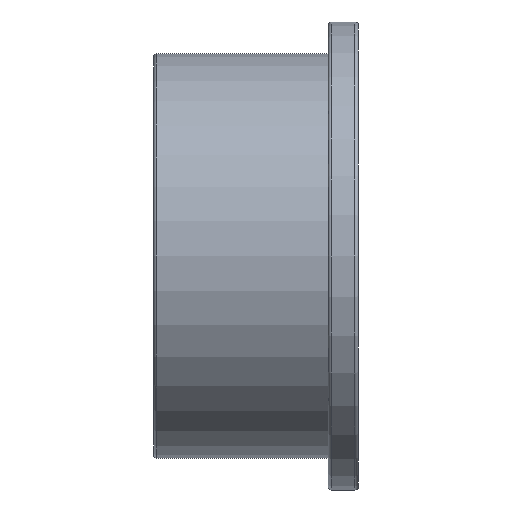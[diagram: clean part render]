
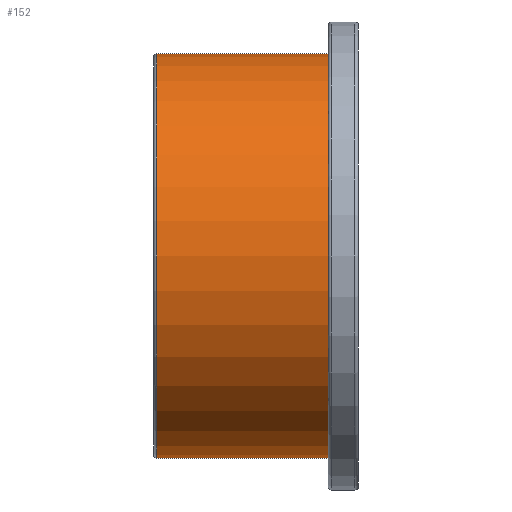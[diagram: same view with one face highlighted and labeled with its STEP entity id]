
A CAD part, front view. The second image highlights one B-rep face of the part: STEP entity #152.
In plain terms, the highlighted cylindrical face has radius 73 mm (diameter 146 mm), a full revolution.
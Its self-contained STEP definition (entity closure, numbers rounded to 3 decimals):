
#21=CYLINDRICAL_SURFACE('',#176,73.);
#30=FACE_BOUND('',#64,.T.);
#43=FACE_OUTER_BOUND('',#63,.T.);
#63=EDGE_LOOP('',(#128));
#64=EDGE_LOOP('',(#129));
#78=CIRCLE('',#166,73.);
#83=CIRCLE('',#175,73.);
#91=VERTEX_POINT('',#250);
#96=VERTEX_POINT('',#264);
#104=EDGE_CURVE('',#91,#91,#78,.T.);
#109=EDGE_CURVE('',#96,#96,#83,.T.);
#128=ORIENTED_EDGE('',*,*,#104,.T.);
#129=ORIENTED_EDGE('',*,*,#109,.F.);
#152=ADVANCED_FACE('',(#43,#30),#21,.T.);
#166=AXIS2_PLACEMENT_3D('',#251,#200,#201);
#175=AXIS2_PLACEMENT_3D('',#265,#218,#219);
#176=AXIS2_PLACEMENT_3D('',#266,#220,#221);
#200=DIRECTION('center_axis',(-1.,0.,0.));
#201=DIRECTION('ref_axis',(0.,0.,1.));
#218=DIRECTION('center_axis',(-1.,0.,0.));
#219=DIRECTION('ref_axis',(0.,1.,0.));
#220=DIRECTION('center_axis',(-1.,0.,0.));
#221=DIRECTION('ref_axis',(0.,-1.,0.));
#250=CARTESIAN_POINT('',(63.,-73.,0.));
#251=CARTESIAN_POINT('Origin',(63.,0.,0.));
#264=CARTESIAN_POINT('',(1.25,-73.,0.));
#265=CARTESIAN_POINT('Origin',(1.25,0.,0.));
#266=CARTESIAN_POINT('Origin',(31.5,0.,0.));
